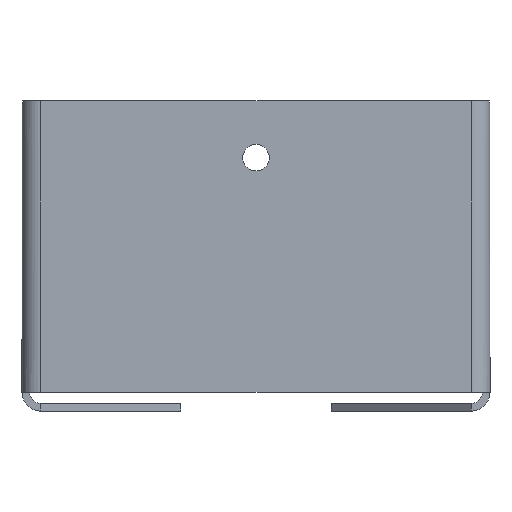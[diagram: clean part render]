
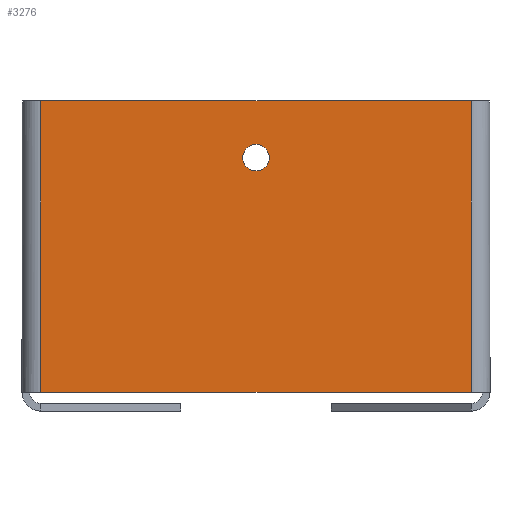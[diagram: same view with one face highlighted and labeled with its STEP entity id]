
A CAD part, front view. The second image highlights one B-rep face of the part: STEP entity #3276.
In plain terms, the highlighted planar face has unit normal (0, -1, 0).
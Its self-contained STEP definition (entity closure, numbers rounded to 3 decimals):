
#107 = VERTEX_POINT ( 'NONE', #4416 ) ;
#119 = ORIENTED_EDGE ( 'NONE', *, *, #224, .F. ) ;
#205 = PLANE ( 'NONE',  #1821 ) ;
#224 = EDGE_CURVE ( 'NONE', #447, #107, #3523, .T. ) ;
#234 = CIRCLE ( 'NONE', #2518, 3.5 ) ;
#248 = VERTEX_POINT ( 'NONE', #3765 ) ;
#260 = AXIS2_PLACEMENT_3D ( 'NONE', #1489, #3323, #3436 ) ;
#447 = VERTEX_POINT ( 'NONE', #3416 ) ;
#484 = DIRECTION ( 'NONE',  ( 1., 0., 0. ) ) ;
#530 = CARTESIAN_POINT ( 'NONE',  ( 220., 0., 28.5 ) ) ;
#704 = VECTOR ( 'NONE', #3846, 1000. ) ;
#903 = FACE_OUTER_BOUND ( 'NONE', #1478, .T. ) ;
#954 = ORIENTED_EDGE ( 'NONE', *, *, #1012, .F. ) ;
#1012 = EDGE_CURVE ( 'NONE', #107, #2728, #1893, .T. ) ;
#1199 = ORIENTED_EDGE ( 'NONE', *, *, #4021, .T. ) ;
#1331 = EDGE_CURVE ( 'NONE', #3171, #2934, #2903, .T. ) ;
#1379 = CARTESIAN_POINT ( 'NONE',  ( 276.858, 0., 0. ) ) ;
#1478 = EDGE_LOOP ( 'NONE', ( #954, #119, #3131, #2018 ) ) ;
#1489 = CARTESIAN_POINT ( 'NONE',  ( 220., 0., 25. ) ) ;
#1515 = LINE ( 'NONE', #2024, #704 ) ;
#1536 = VECTOR ( 'NONE', #3119, 1000. ) ;
#1821 = AXIS2_PLACEMENT_3D ( 'NONE', #2417, #2071, #2803 ) ;
#1893 = LINE ( 'NONE', #1379, #1952 ) ;
#1916 = CARTESIAN_POINT ( 'NONE',  ( 0., 0., 40. ) ) ;
#1952 = VECTOR ( 'NONE', #4292, 1000. ) ;
#2018 = ORIENTED_EDGE ( 'NONE', *, *, #2695, .T. ) ;
#2024 = CARTESIAN_POINT ( 'NONE',  ( 163.142, 0., 0. ) ) ;
#2067 = CARTESIAN_POINT ( 'NONE',  ( 0., 0., -37. ) ) ;
#2071 = DIRECTION ( 'NONE',  ( 0., -1., 0. ) ) ;
#2179 = DIRECTION ( 'NONE',  ( 0., 1., 0. ) ) ;
#2417 = CARTESIAN_POINT ( 'NONE',  ( 0., 0., 0. ) ) ;
#2518 = AXIS2_PLACEMENT_3D ( 'NONE', #4027, #2179, #4377 ) ;
#2672 = EDGE_LOOP ( 'NONE', ( #2881, #1199 ) ) ;
#2695 = EDGE_CURVE ( 'NONE', #248, #2728, #2951, .T. ) ;
#2728 = VERTEX_POINT ( 'NONE', #3494 ) ;
#2803 = DIRECTION ( 'NONE',  ( 0., 0., -1. ) ) ;
#2881 = ORIENTED_EDGE ( 'NONE', *, *, #1331, .T. ) ;
#2903 = CIRCLE ( 'NONE', #260, 3.5 ) ;
#2934 = VERTEX_POINT ( 'NONE', #4033 ) ;
#2951 = LINE ( 'NONE', #2067, #1536 ) ;
#3119 = DIRECTION ( 'NONE',  ( 1., 0., 0. ) ) ;
#3131 = ORIENTED_EDGE ( 'NONE', *, *, #3811, .F. ) ;
#3171 = VERTEX_POINT ( 'NONE', #530 ) ;
#3276 = ADVANCED_FACE ( 'NONE', ( #903, #4656 ), #205, .T. ) ;
#3323 = DIRECTION ( 'NONE',  ( 0., 1., 0. ) ) ;
#3416 = CARTESIAN_POINT ( 'NONE',  ( 163.142, 0., 40. ) ) ;
#3436 = DIRECTION ( 'NONE',  ( 0., 0., 1. ) ) ;
#3494 = CARTESIAN_POINT ( 'NONE',  ( 276.858, 0., -37. ) ) ;
#3523 = LINE ( 'NONE', #1916, #3822 ) ;
#3765 = CARTESIAN_POINT ( 'NONE',  ( 163.142, 0., -37. ) ) ;
#3811 = EDGE_CURVE ( 'NONE', #248, #447, #1515, .T. ) ;
#3822 = VECTOR ( 'NONE', #484, 1000. ) ;
#3846 = DIRECTION ( 'NONE',  ( 0., 0., 1. ) ) ;
#4021 = EDGE_CURVE ( 'NONE', #2934, #3171, #234, .T. ) ;
#4027 = CARTESIAN_POINT ( 'NONE',  ( 220., 0., 25. ) ) ;
#4033 = CARTESIAN_POINT ( 'NONE',  ( 220., 0., 21.5 ) ) ;
#4292 = DIRECTION ( 'NONE',  ( 0., 0., -1. ) ) ;
#4377 = DIRECTION ( 'NONE',  ( 0., 0., 1. ) ) ;
#4416 = CARTESIAN_POINT ( 'NONE',  ( 276.858, 0., 40. ) ) ;
#4656 = FACE_BOUND ( 'NONE', #2672, .T. ) ;
